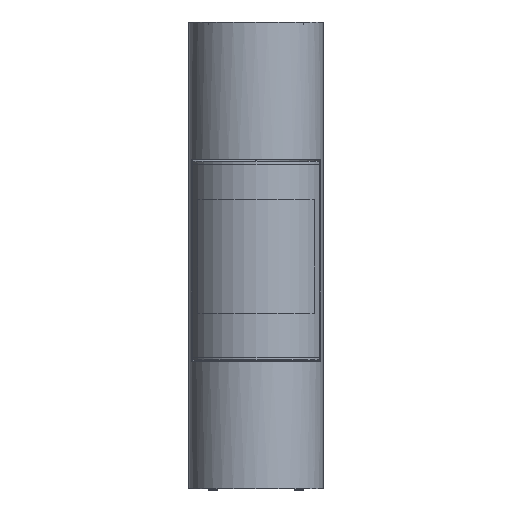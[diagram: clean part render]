
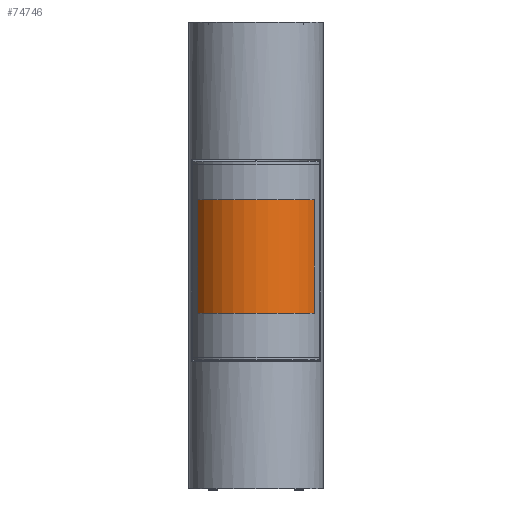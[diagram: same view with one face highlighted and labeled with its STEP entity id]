
A CAD part, front view. The second image highlights one B-rep face of the part: STEP entity #74746.
In plain terms, the highlighted cylindrical face has radius 231 mm (diameter 462 mm), a partial arc.
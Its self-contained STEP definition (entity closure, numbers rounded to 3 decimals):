
#5742=CIRCLE('',#80572,231.);
#5743=CIRCLE('',#80573,231.);
#9904=FACE_OUTER_BOUND('',#14478,.T.);
#14478=EDGE_LOOP('',(#56982,#56983,#56984,#56985));
#20646=LINE('',#121882,#26131);
#20647=LINE('',#121885,#26132);
#26131=VECTOR('',#95554,10.);
#26132=VECTOR('',#95557,10.);
#32533=VERTEX_POINT('',#121878);
#32534=VERTEX_POINT('',#121879);
#32535=VERTEX_POINT('',#121881);
#32536=VERTEX_POINT('',#121883);
#41109=EDGE_CURVE('',#32533,#32534,#5742,.T.);
#41110=EDGE_CURVE('',#32534,#32535,#20646,.T.);
#41111=EDGE_CURVE('',#32535,#32536,#5743,.T.);
#41112=EDGE_CURVE('',#32536,#32533,#20647,.T.);
#56982=ORIENTED_EDGE('',*,*,#41112,.F.);
#56983=ORIENTED_EDGE('',*,*,#41111,.F.);
#56984=ORIENTED_EDGE('',*,*,#41110,.F.);
#56985=ORIENTED_EDGE('',*,*,#41109,.F.);
#67782=CYLINDRICAL_SURFACE('',#80579,231.);
#74746=ADVANCED_FACE('',(#9904),#67782,.T.);
#80572=AXIS2_PLACEMENT_3D('',#121880,#95552,#95553);
#80573=AXIS2_PLACEMENT_3D('',#121884,#95555,#95556);
#80579=AXIS2_PLACEMENT_3D('',#121898,#95571,#95572);
#95552=DIRECTION('center_axis',(0.,0.,
-1.));
#95553=DIRECTION('ref_axis',(-0.94,-0.342,0.));
#95554=DIRECTION('',(0.,0.,1.));
#95555=DIRECTION('center_axis',(0.,0.,
1.));
#95556=DIRECTION('ref_axis',(-0.94,-0.342,0.));
#95557=DIRECTION('',(0.,0.,-1.));
#95571=DIRECTION('center_axis',(0.,0.,
1.));
#95572=DIRECTION('ref_axis',(-0.94,-0.342,0.));
#121878=CARTESIAN_POINT('',(200.052,-115.5,-199.));
#121879=CARTESIAN_POINT('',(-200.052,-115.5,-199.));
#121880=CARTESIAN_POINT('Origin',(0.,0.,
-199.));
#121881=CARTESIAN_POINT('',(-200.052,-115.5,191.));
#121882=CARTESIAN_POINT('',(-200.052,-115.5,-4.));
#121883=CARTESIAN_POINT('',(200.052,-115.5,191.));
#121884=CARTESIAN_POINT('Origin',(0.,0.,
191.));
#121885=CARTESIAN_POINT('',(200.052,-115.5,-4.));
#121898=CARTESIAN_POINT('Origin',(0.,0.,
-4.));
